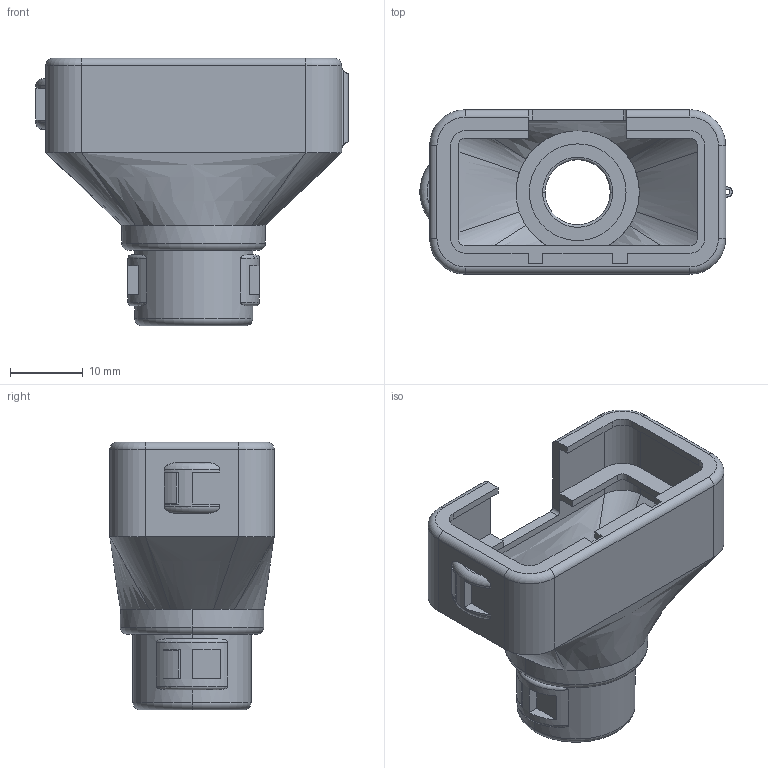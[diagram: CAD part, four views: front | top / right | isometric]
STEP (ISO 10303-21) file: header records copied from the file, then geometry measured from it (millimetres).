
FILE_DESCRIPTION((''),'2;1');
FILE_NAME('C-2035047-8','2012-04-12T',('workeradm'),('Tyco Electronics Ltd.'),'PRO/ENGINEER BY PARAMETRIC TECHNOLOGY CORPORATION, 2010430','PRO/ENGINEER BY PARAMETRIC TECHNOLOGY CORPORATION, 2010430','');
FILE_SCHEMA(('AUTOMOTIVE_DESIGN { 1 0 10303 214 1 1 1 1 }'));
Length unit declared in the file: millimetre
Products named in the file (1): C-2035047-8
Bounding box: 42.96 x 22.6 x 36.8 mm (x, y, z)
Volume: 4622.2 mm3; surface area: 7464.7 mm2
Topology: 1 solids, 1 shells, 167 faces, 436 edges, 280 vertices
Faces by surface type: plane 82, cylinder 51, torus 18, bspline 16
Entity records: 6529 total; most frequent: CARTESIAN_POINT 2119, ORIENTED_EDGE 872, DIRECTION 870, EDGE_CURVE 436, AXIS2_PLACEMENT_3D 307, VERTEX_POINT 280, VECTOR 256, LINE 256
